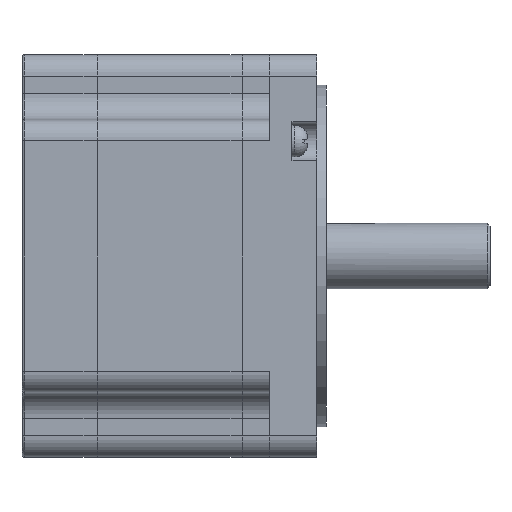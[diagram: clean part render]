
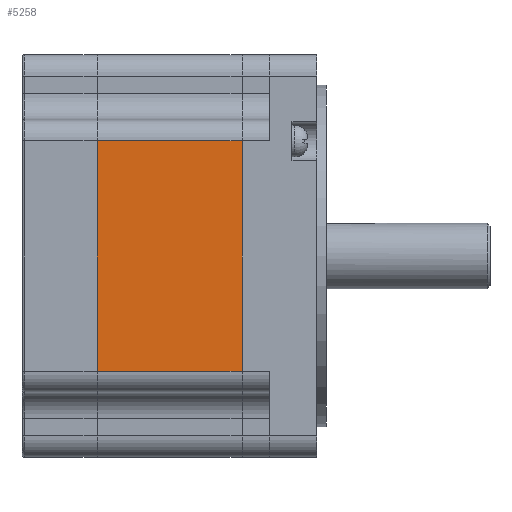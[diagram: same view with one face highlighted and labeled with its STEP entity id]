
A CAD part, front view. The second image highlights one B-rep face of the part: STEP entity #5258.
In plain terms, the highlighted planar face has unit normal (0, -1, 0).
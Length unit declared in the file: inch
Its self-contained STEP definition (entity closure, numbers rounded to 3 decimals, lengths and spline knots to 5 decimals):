
#4268=CARTESIAN_POINT('',(1.6369,-1.695,-0.971));
#4269=VERTEX_POINT('',#4268);
#4277=CARTESIAN_POINT('',(1.6369,-1.695,0.971));
#4278=VERTEX_POINT('',#4277);
#4279=CARTESIAN_POINT('',(1.6369,-1.695,-0.4855));
#4280=DIRECTION('',(0.,0.,1.));
#4281=VECTOR('',#4280,1.);
#4282=LINE('',#4279,#4281);
#4283=EDGE_CURVE('',#4269,#4278,#4282,.T.);
#4605=CARTESIAN_POINT('',(2.85722,-1.695,0.971));
#4606=VERTEX_POINT('',#4605);
#4614=CARTESIAN_POINT('',(2.85722,-1.695,-0.971));
#4615=VERTEX_POINT('',#4614);
#4616=CARTESIAN_POINT('',(2.85722,-1.695,-0.4855));
#4617=DIRECTION('',(0.,0.,1.));
#4618=VECTOR('',#4617,1.);
#4619=LINE('',#4616,#4618);
#4620=EDGE_CURVE('',#4615,#4606,#4619,.T.);
#4948=CARTESIAN_POINT('',(1.54,-1.695,0.971));
#4949=DIRECTION('',(1.,0.,0.));
#4950=VECTOR('',#4949,39.37008);
#4951=LINE('',#4948,#4950);
#4952=EDGE_CURVE('',#4278,#4606,#4951,.T.);
#5242=CARTESIAN_POINT('',(1.54,-1.695,-0.971));
#5243=DIRECTION('',(1.,0.,0.));
#5244=VECTOR('',#5243,39.37008);
#5245=LINE('',#5242,#5244);
#5246=EDGE_CURVE('',#4269,#4615,#5245,.T.);
#5247=ORIENTED_EDGE('',*,*,#5246,.T.);
#5248=ORIENTED_EDGE('',*,*,#4620,.T.);
#5249=ORIENTED_EDGE('',*,*,#4952,.F.);
#5250=ORIENTED_EDGE('',*,*,#4283,.F.);
#5251=EDGE_LOOP('',(#5247,#5248,#5249,#5250));
#5252=FACE_OUTER_BOUND('',#5251,.T.);
#5253=CARTESIAN_POINT('',(1.54,-1.695,-0.971));
#5254=DIRECTION('',(0.,-1.,0.));
#5255=DIRECTION('',(0.,0.,-1.));
#5256=AXIS2_PLACEMENT_3D('',#5253,#5254,#5255);
#5257=PLANE('',#5256);
#5258=ADVANCED_FACE('',(#5252),#5257,.T.);
